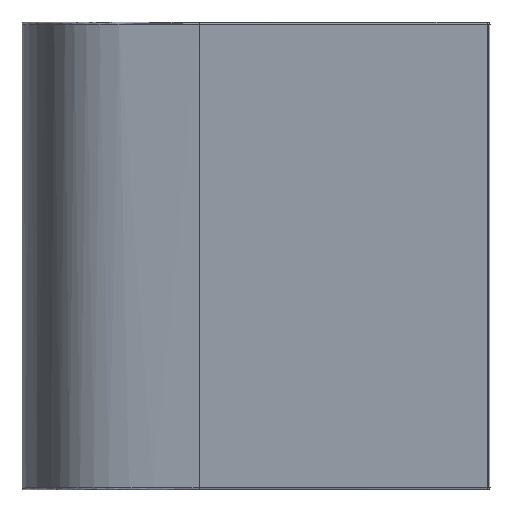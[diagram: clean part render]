
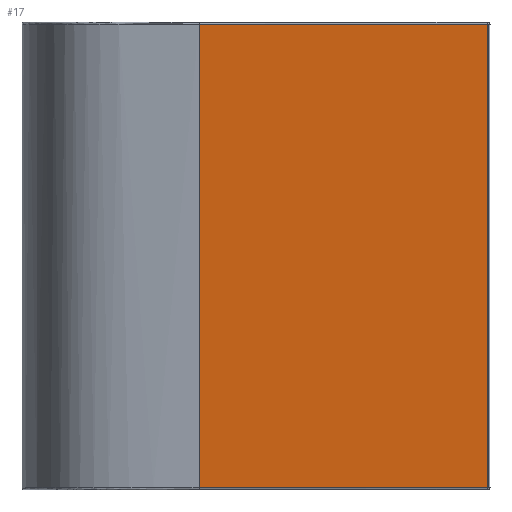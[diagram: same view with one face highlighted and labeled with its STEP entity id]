
A CAD part, left-side view. The second image highlights one B-rep face of the part: STEP entity #17.
In plain terms, the highlighted planar face has unit normal (-0.988, 0.152, 0).
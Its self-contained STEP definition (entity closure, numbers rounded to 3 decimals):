
#17 = ADVANCED_FACE ( 'NONE', ( #5087 ), #3436, .F. ) ;
#240 = LINE ( 'NONE', #2577, #3592 ) ;
#401 = DIRECTION ( 'NONE',  ( 0., 0., -1. ) ) ;
#713 = DIRECTION ( 'NONE',  ( 0.152, 0.988, 0. ) ) ;
#834 = VERTEX_POINT ( 'NONE', #2492 ) ;
#1143 = ORIENTED_EDGE ( 'NONE', *, *, #1499, .T. ) ;
#1292 = LINE ( 'NONE', #5114, #3472 ) ;
#1308 = VERTEX_POINT ( 'NONE', #4118 ) ;
#1499 = EDGE_CURVE ( 'NONE', #1308, #834, #1730, .T. ) ;
#1588 = EDGE_CURVE ( 'NONE', #4043, #1308, #240, .T. ) ;
#1651 = CARTESIAN_POINT ( 'NONE',  ( 94.928, -182.284, 248. ) ) ;
#1680 = DIRECTION ( 'NONE',  ( 0.152, 0.988, 0. ) ) ;
#1730 = LINE ( 'NONE', #2992, #5561 ) ;
#2130 = CARTESIAN_POINT ( 'NONE',  ( 142.335, 126.414, 250. ) ) ;
#2492 = CARTESIAN_POINT ( 'NONE',  ( 94.928, -182.284, -248. ) ) ;
#2577 = CARTESIAN_POINT ( 'NONE',  ( 142.335, 126.414, 250. ) ) ;
#2644 = AXIS2_PLACEMENT_3D ( 'NONE', #2130, #5583, #1680 ) ;
#2661 = VECTOR ( 'NONE', #713, 1000. ) ;
#2739 = EDGE_LOOP ( 'NONE', ( #5188, #4340, #2873, #1143 ) ) ;
#2840 = EDGE_CURVE ( 'NONE', #3620, #4043, #3805, .T. ) ;
#2873 = ORIENTED_EDGE ( 'NONE', *, *, #1588, .T. ) ;
#2948 = DIRECTION ( 'NONE',  ( 0., 0., 1. ) ) ;
#2992 = CARTESIAN_POINT ( 'NONE',  ( 142.335, 126.414, -248. ) ) ;
#3436 = PLANE ( 'NONE',  #2644 ) ;
#3472 = VECTOR ( 'NONE', #2948, 1000. ) ;
#3592 = VECTOR ( 'NONE', #401, 1000. ) ;
#3620 = VERTEX_POINT ( 'NONE', #1651 ) ;
#3805 = LINE ( 'NONE', #5065, #2661 ) ;
#4043 = VERTEX_POINT ( 'NONE', #4429 ) ;
#4118 = CARTESIAN_POINT ( 'NONE',  ( 142.335, 126.414, -248. ) ) ;
#4340 = ORIENTED_EDGE ( 'NONE', *, *, #2840, .T. ) ;
#4429 = CARTESIAN_POINT ( 'NONE',  ( 142.335, 126.414, 248. ) ) ;
#5065 = CARTESIAN_POINT ( 'NONE',  ( 142.335, 126.414, 248. ) ) ;
#5087 = FACE_OUTER_BOUND ( 'NONE', #2739, .T. ) ;
#5114 = CARTESIAN_POINT ( 'NONE',  ( 94.928, -182.284, 250. ) ) ;
#5162 = DIRECTION ( 'NONE',  ( -0.152, -0.988, 0. ) ) ;
#5188 = ORIENTED_EDGE ( 'NONE', *, *, #5579, .T. ) ;
#5561 = VECTOR ( 'NONE', #5162, 1000. ) ;
#5579 = EDGE_CURVE ( 'NONE', #834, #3620, #1292, .T. ) ;
#5583 = DIRECTION ( 'NONE',  ( 0.988, -0.152, 0. ) ) ;
